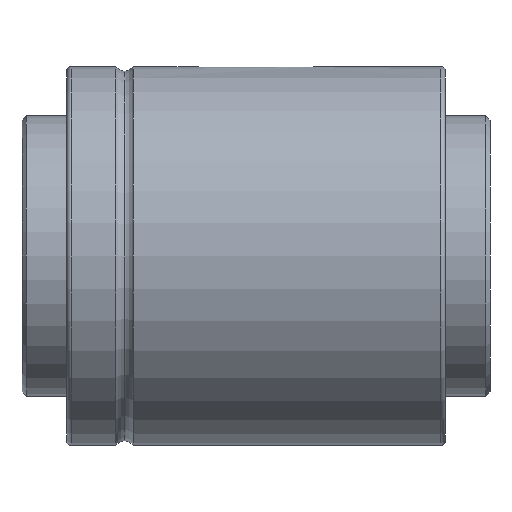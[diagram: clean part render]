
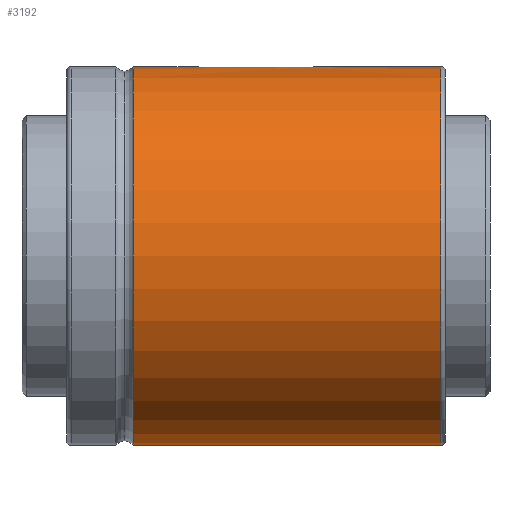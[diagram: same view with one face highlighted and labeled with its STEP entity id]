
A CAD part, front view. The second image highlights one B-rep face of the part: STEP entity #3192.
In plain terms, the highlighted cylindrical face has radius 42.5 mm (diameter 85 mm), a partial arc.
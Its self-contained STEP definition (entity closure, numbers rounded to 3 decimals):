
#38 = CARTESIAN_POINT ( 'NONE',  ( 84., 0., -42.5 ) ) ;
#169 = B_SPLINE_CURVE_WITH_KNOTS ( 'NONE', 3,
 ( #1325, #1858, #1114, #1126, #2433, #2949, #1677, #2174, #881, #870, #1915, #2397, #1639, #2961, #2686, #3168 ),
 .UNSPECIFIED., .F., .F.,
 ( 4, 2, 2, 2, 2, 2, 2, 4 ),
 ( 0.005, 0.005, 0.006, 0.006, 0.007, 0.008, 0.008, 0.009 ),
 .UNSPECIFIED. ) ;
#173 = VERTEX_POINT ( 'NONE', #284 ) ;
#272 = EDGE_CURVE ( 'NONE', #3145, #2650, #1689, .T. ) ;
#284 = CARTESIAN_POINT ( 'NONE',  ( 27.5, 0., 42.5 ) ) ;
#297 = LINE ( 'NONE', #662, #2839 ) ;
#310 = ORIENTED_EDGE ( 'NONE', *, *, #2912, .T. ) ;
#373 = DIRECTION ( 'NONE',  ( -1., 0., 0. ) ) ;
#378 = LINE ( 'NONE', #1459, #3042 ) ;
#400 = DIRECTION ( 'NONE',  ( -1., 0., 0. ) ) ;
#416 = CARTESIAN_POINT ( 'NONE',  ( 30.107, -2.981, 42.395 ) ) ;
#448 = EDGE_CURVE ( 'NONE', #2382, #3191, #297, .T. ) ;
#458 = CARTESIAN_POINT ( 'NONE',  ( 27.804, -1.331, 42.48 ) ) ;
#531 = EDGE_CURVE ( 'NONE', #2584, #748, #378, .T. ) ;
#534 = EDGE_CURVE ( 'NONE', #807, #2650, #2076, .T. ) ;
#560 = CARTESIAN_POINT ( 'NONE',  ( 57.5, 0., 42.5 ) ) ;
#565 = CARTESIAN_POINT ( 'NONE',  ( 85., 0., 42.5 ) ) ;
#662 = CARTESIAN_POINT ( 'NONE',  ( 85., -3., 42.394 ) ) ;
#667 = CARTESIAN_POINT ( 'NONE',  ( 84., 0., 0. ) ) ;
#685 = CARTESIAN_POINT ( 'NONE',  ( 84., 0., 42.5 ) ) ;
#705 = CARTESIAN_POINT ( 'NONE',  ( 28.117, -1.833, 42.461 ) ) ;
#748 = VERTEX_POINT ( 'NONE', #560 ) ;
#807 = VERTEX_POINT ( 'NONE', #1860 ) ;
#820 = VECTOR ( 'NONE', #2122, 1000. ) ;
#822 = ORIENTED_EDGE ( 'NONE', *, *, #448, .T. ) ;
#864 = CARTESIAN_POINT ( 'NONE',  ( 85., 0., -42.5 ) ) ;
#870 = CARTESIAN_POINT ( 'NONE',  ( 56.484, -2.259, 42.44 ) ) ;
#881 = CARTESIAN_POINT ( 'NONE',  ( 56.76, -1.982, 42.454 ) ) ;
#890 = DIRECTION ( 'NONE',  ( -1., 0., 0. ) ) ;
#944 = DIRECTION ( 'NONE',  ( -1., 0., 0. ) ) ;
#982 = CARTESIAN_POINT ( 'NONE',  ( 27.5, 0., 42.5 ) ) ;
#995 = CARTESIAN_POINT ( 'NONE',  ( 29.724, -2.904, 42.401 ) ) ;
#1114 = CARTESIAN_POINT ( 'NONE',  ( 57.481, -0.393, 42.499 ) ) ;
#1126 = CARTESIAN_POINT ( 'NONE',  ( 57.404, -0.776, 42.493 ) ) ;
#1177 = EDGE_CURVE ( 'NONE', #173, #807, #3136, .T. ) ;
#1256 = CARTESIAN_POINT ( 'NONE',  ( 28.241, -1.984, 42.454 ) ) ;
#1270 = CARTESIAN_POINT ( 'NONE',  ( 27.58, -0.79, 42.494 ) ) ;
#1325 = CARTESIAN_POINT ( 'NONE',  ( 57.5, 0., 42.5 ) ) ;
#1344 = AXIS2_PLACEMENT_3D ( 'NONE', #3247, #1755, #2010 ) ;
#1353 = DIRECTION ( 'NONE',  ( 0., 0., 1. ) ) ;
#1386 = CARTESIAN_POINT ( 'NONE',  ( 30.5, -3., 42.394 ) ) ;
#1435 = CARTESIAN_POINT ( 'NONE',  ( 30.302, -3., 42.394 ) ) ;
#1459 = CARTESIAN_POINT ( 'NONE',  ( 85., 0., 42.5 ) ) ;
#1502 = CARTESIAN_POINT ( 'NONE',  ( 28.672, -2.387, 42.433 ) ) ;
#1596 = DIRECTION ( 'NONE',  ( -1., 0., 0. ) ) ;
#1639 = CARTESIAN_POINT ( 'NONE',  ( 55.831, -2.696, 42.414 ) ) ;
#1677 = CARTESIAN_POINT ( 'NONE',  ( 57.104, -1.502, 42.474 ) ) ;
#1689 = LINE ( 'NONE', #864, #820 ) ;
#1741 = VECTOR ( 'NONE', #890, 1000. ) ;
#1755 = DIRECTION ( 'NONE',  ( 1., 0., 0. ) ) ;
#1756 = CARTESIAN_POINT ( 'NONE',  ( 27.898, -1.505, 42.474 ) ) ;
#1858 = CARTESIAN_POINT ( 'NONE',  ( 57.5, -0.198, 42.5 ) ) ;
#1860 = CARTESIAN_POINT ( 'NONE',  ( 15., 0., 42.5 ) ) ;
#1873 = ORIENTED_EDGE ( 'NONE', *, *, #2282, .T. ) ;
#1892 = CIRCLE ( 'NONE', #2841, 42.5 ) ;
#1900 = AXIS2_PLACEMENT_3D ( 'NONE', #2883, #1596, #1353 ) ;
#1915 = CARTESIAN_POINT ( 'NONE',  ( 56.333, -2.383, 42.433 ) ) ;
#2010 = DIRECTION ( 'NONE',  ( 0., 0., 1. ) ) ;
#2013 = CARTESIAN_POINT ( 'NONE',  ( 28.518, -2.26, 42.44 ) ) ;
#2041 = CARTESIAN_POINT ( 'NONE',  ( 28.998, -2.604, 42.42 ) ) ;
#2042 = EDGE_LOOP ( 'NONE', ( #2310, #2916, #2336, #1873, #822, #310, #2782, #2984 ) ) ;
#2076 = CIRCLE ( 'NONE', #1344, 42.5 ) ;
#2122 = DIRECTION ( 'NONE',  ( -1., 0., 0. ) ) ;
#2174 = CARTESIAN_POINT ( 'NONE',  ( 56.887, -1.828, 42.461 ) ) ;
#2282 = EDGE_CURVE ( 'NONE', #748, #2382, #169, .T. ) ;
#2310 = ORIENTED_EDGE ( 'NONE', *, *, #272, .F. ) ;
#2336 = ORIENTED_EDGE ( 'NONE', *, *, #531, .T. ) ;
#2337 = B_SPLINE_CURVE_WITH_KNOTS ( 'NONE', 3,
 ( #2497, #1435, #416, #995, #2519, #2507, #2041, #1502, #2013, #1256, #705, #1756, #458, #1270, #2807, #982 ),
 .UNSPECIFIED., .F., .F.,
 ( 4, 2, 2, 2, 2, 2, 2, 4 ),
 ( -0.005, -0.004, -0.004, -0.003, -0.002, -0.002, -0.001, 0. ),
 .UNSPECIFIED. ) ;
#2382 = VERTEX_POINT ( 'NONE', #2649 ) ;
#2397 = CARTESIAN_POINT ( 'NONE',  ( 56.005, -2.602, 42.42 ) ) ;
#2427 = EDGE_CURVE ( 'NONE', #3145, #2584, #1892, .T. ) ;
#2433 = CARTESIAN_POINT ( 'NONE',  ( 57.347, -0.967, 42.489 ) ) ;
#2497 = CARTESIAN_POINT ( 'NONE',  ( 30.5, -3., 42.394 ) ) ;
#2507 = CARTESIAN_POINT ( 'NONE',  ( 29.17, -2.696, 42.414 ) ) ;
#2513 = FACE_OUTER_BOUND ( 'NONE', #2042, .T. ) ;
#2519 = CARTESIAN_POINT ( 'NONE',  ( 29.533, -2.847, 42.405 ) ) ;
#2584 = VERTEX_POINT ( 'NONE', #685 ) ;
#2649 = CARTESIAN_POINT ( 'NONE',  ( 54.5, -3., 42.394 ) ) ;
#2650 = VERTEX_POINT ( 'NONE', #3083 ) ;
#2686 = CARTESIAN_POINT ( 'NONE',  ( 54.896, -3., 42.394 ) ) ;
#2782 = ORIENTED_EDGE ( 'NONE', *, *, #1177, .T. ) ;
#2807 = CARTESIAN_POINT ( 'NONE',  ( 27.5, -0.396, 42.5 ) ) ;
#2839 = VECTOR ( 'NONE', #373, 1000. ) ;
#2841 = AXIS2_PLACEMENT_3D ( 'NONE', #667, #400, #3003 ) ;
#2883 = CARTESIAN_POINT ( 'NONE',  ( 85., 0., 0. ) ) ;
#2912 = EDGE_CURVE ( 'NONE', #3191, #173, #2337, .T. ) ;
#2916 = ORIENTED_EDGE ( 'NONE', *, *, #2427, .T. ) ;
#2949 = CARTESIAN_POINT ( 'NONE',  ( 57.196, -1.33, 42.48 ) ) ;
#2961 = CARTESIAN_POINT ( 'NONE',  ( 55.29, -2.92, 42.4 ) ) ;
#2968 = CYLINDRICAL_SURFACE ( 'NONE', #1900, 42.5 ) ;
#2984 = ORIENTED_EDGE ( 'NONE', *, *, #534, .T. ) ;
#3003 = DIRECTION ( 'NONE',  ( 0., 0., -1. ) ) ;
#3042 = VECTOR ( 'NONE', #944, 1000. ) ;
#3083 = CARTESIAN_POINT ( 'NONE',  ( 15., 0., -42.5 ) ) ;
#3136 = LINE ( 'NONE', #565, #1741 ) ;
#3145 = VERTEX_POINT ( 'NONE', #38 ) ;
#3168 = CARTESIAN_POINT ( 'NONE',  ( 54.5, -3., 42.394 ) ) ;
#3191 = VERTEX_POINT ( 'NONE', #1386 ) ;
#3192 = ADVANCED_FACE ( 'NONE', ( #2513 ), #2968, .T. ) ;
#3247 = CARTESIAN_POINT ( 'NONE',  ( 15., 0., 0. ) ) ;
